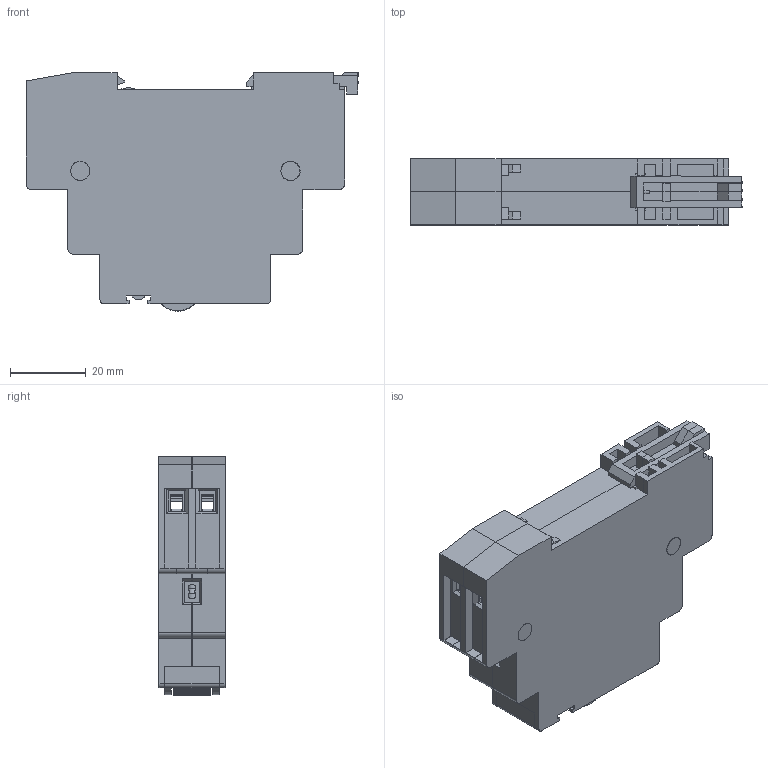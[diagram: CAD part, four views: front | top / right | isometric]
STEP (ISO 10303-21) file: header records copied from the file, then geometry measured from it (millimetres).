
FILE_DESCRIPTION(('STEP AP214'),'2;1');
FILE_NAME('2022.stp','2010-07-16T16:26:58',(''),(''),'2007.1.106','THINKDESIGN','');
FILE_SCHEMA(('AUTOMOTIVE_DESIGN'));
Products named in the file (1): None
Bounding box: 87.5 x 17.4 x 62.8 mm (x, y, z)
Surface area: 17747.7 mm2 (no closed solid volume)
Topology: 0 solids, 0 shells, 719 faces, 4079 edges, 4052 vertices
Faces by surface type: plane 583, cylinder 75, bspline 61
Full cylindrical faces by diameter (mm): 2.3 x6, 2.4 x2, 3 x5, 5.1 x2
Entity records: 42737 total; most frequent: CARTESIAN_POINT 13094, DIRECTION 5124, COMPOSITE_CURVE_SEGMENT 4077, TRIMMED_CURVE 3620, VECTOR 3484, LINE 3484, AXIS2_PLACEMENT_3D 820, OUTER_BOUNDARY_CURVE 719
